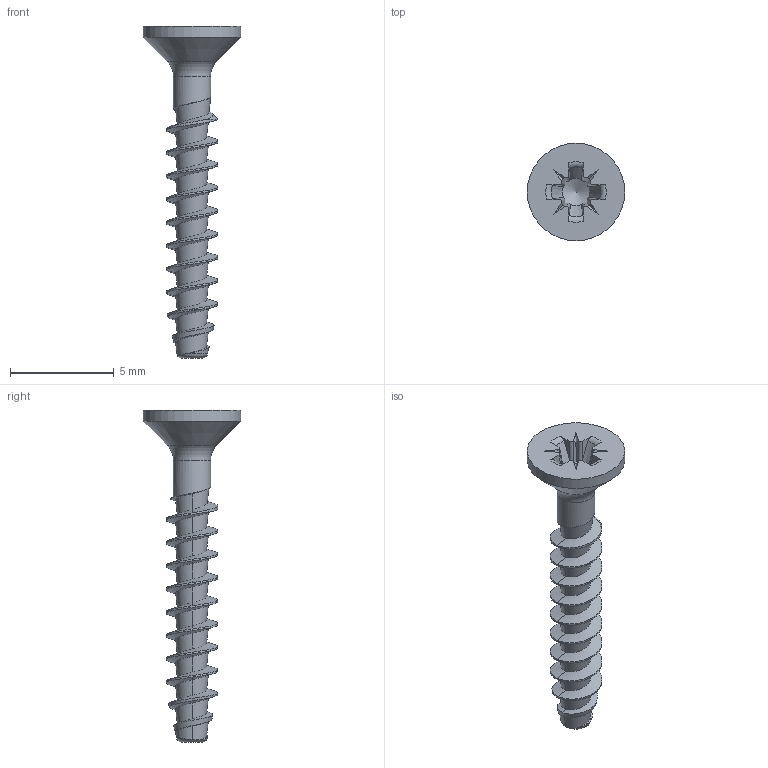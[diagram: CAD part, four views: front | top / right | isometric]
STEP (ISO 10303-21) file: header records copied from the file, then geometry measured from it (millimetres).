
FILE_DESCRIPTION(/* description */ (''),/* implementation_level */ '2;1');
FILE_NAME(/* name */ 'KN1033-STS-Neu-25x16-Z1.step',/* time_stamp */ '2017-10-20T11:44:48+02:00',/* author */ (''),/* organization */ (''),/* preprocessor_version */ 'ST-DEVELOPER v16',/* originating_system */ 'SIEMENS PLM Software NX 10.0',/* authorisation */ '');
FILE_SCHEMA (('AUTOMOTIVE_DESIGN { 1 0 10303 214 3 1 1 1 }'));
Length unit declared in the file: millimetre
Products named in the file (1): KN1033-STS-Neu-25x16-Z1
Bounding box: 4.7 x 4.7 x 16 mm (x, y, z)
Volume: 51.7 mm3; surface area: 174.7 mm2
Topology: 1 solids, 1 shells, 87 faces, 227 edges, 142 vertices
Faces by surface type: bspline 35, plane 26, cylinder 12, cone 8, torus 6
Full cylindrical faces by diameter (mm): 1.8 x1, 4.7 x1
Entity records: 4884 total; most frequent: CARTESIAN_POINT 3086, ORIENTED_EDGE 428, DIRECTION 250, EDGE_CURVE 214, VERTEX_POINT 137, B_SPLINE_CURVE_WITH_KNOTS 97, EDGE_LOOP 92, LINE 88
